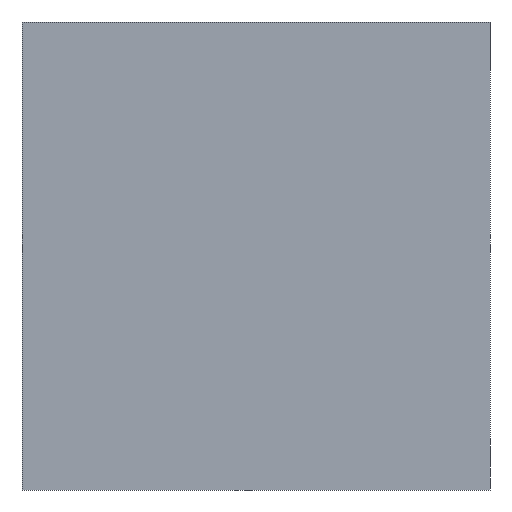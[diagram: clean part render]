
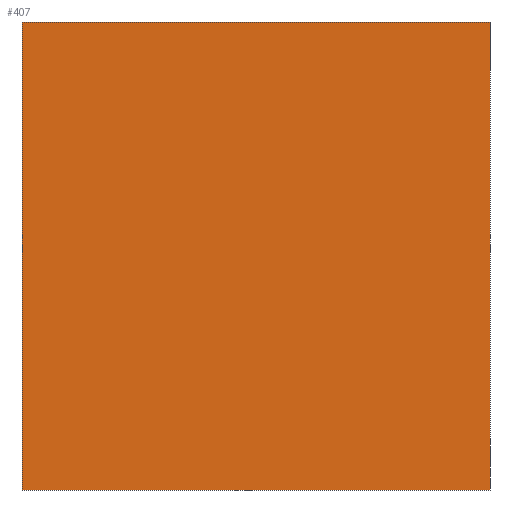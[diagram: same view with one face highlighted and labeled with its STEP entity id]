
A CAD part, front view. The second image highlights one B-rep face of the part: STEP entity #407.
In plain terms, the highlighted planar face has unit normal (0, -1, 0).
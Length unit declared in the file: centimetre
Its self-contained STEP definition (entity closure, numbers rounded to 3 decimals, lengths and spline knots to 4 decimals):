
#21 = VECTOR ( 'NONE', #54, 100. ) ;
#32 = CARTESIAN_POINT ( 'NONE',  ( 0., 0., 1000. ) ) ;
#40 = EDGE_LOOP ( 'NONE', ( #62, #134, #264, #380 ) ) ;
#49 = DIRECTION ( 'NONE',  ( 0., 0., -1. ) ) ;
#51 = CARTESIAN_POINT ( 'NONE',  ( 1000., 0., 0. ) ) ;
#52 = VECTOR ( 'NONE', #350, 100. ) ;
#54 = DIRECTION ( 'NONE',  ( 0., 0., -1. ) ) ;
#58 = DIRECTION ( 'NONE',  ( 1., 0., 0. ) ) ;
#60 = AXIS2_PLACEMENT_3D ( 'NONE', #246, #213, #364 ) ;
#62 = ORIENTED_EDGE ( 'NONE', *, *, #72, .T. ) ;
#66 = VECTOR ( 'NONE', #49, 100. ) ;
#72 = EDGE_CURVE ( 'NONE', #339, #231, #135, .T. ) ;
#76 = LINE ( 'NONE', #167, #66 ) ;
#114 = VECTOR ( 'NONE', #58, 100. ) ;
#116 = PLANE ( 'NONE',  #60 ) ;
#134 = ORIENTED_EDGE ( 'NONE', *, *, #196, .F. ) ;
#135 = LINE ( 'NONE', #141, #52 ) ;
#141 = CARTESIAN_POINT ( 'NONE',  ( 0., 0., 0. ) ) ;
#148 = CARTESIAN_POINT ( 'NONE',  ( 1000., 0., 1000. ) ) ;
#167 = CARTESIAN_POINT ( 'NONE',  ( 1000., 0., 1000. ) ) ;
#196 = EDGE_CURVE ( 'NONE', #400, #231, #76, .T. ) ;
#213 = DIRECTION ( 'NONE',  ( 0., 1., 0. ) ) ;
#214 = EDGE_CURVE ( 'NONE', #386, #339, #253, .T. ) ;
#216 = CARTESIAN_POINT ( 'NONE',  ( 0., 0., 0. ) ) ;
#218 = CARTESIAN_POINT ( 'NONE',  ( 0., 0., 1000. ) ) ;
#221 = LINE ( 'NONE', #32, #114 ) ;
#231 = VERTEX_POINT ( 'NONE', #51 ) ;
#246 = CARTESIAN_POINT ( 'NONE',  ( 0., 0., 1000. ) ) ;
#253 = LINE ( 'NONE', #359, #21 ) ;
#264 = ORIENTED_EDGE ( 'NONE', *, *, #425, .F. ) ;
#276 = FACE_OUTER_BOUND ( 'NONE', #40, .T. ) ;
#339 = VERTEX_POINT ( 'NONE', #216 ) ;
#350 = DIRECTION ( 'NONE',  ( 1., 0., 0. ) ) ;
#359 = CARTESIAN_POINT ( 'NONE',  ( 0., 0., 1000. ) ) ;
#364 = DIRECTION ( 'NONE',  ( 0., 0., 1. ) ) ;
#380 = ORIENTED_EDGE ( 'NONE', *, *, #214, .T. ) ;
#386 = VERTEX_POINT ( 'NONE', #218 ) ;
#400 = VERTEX_POINT ( 'NONE', #148 ) ;
#407 = ADVANCED_FACE ( 'NONE', ( #276 ), #116, .F. ) ;
#425 = EDGE_CURVE ( 'NONE', #386, #400, #221, .T. ) ;
